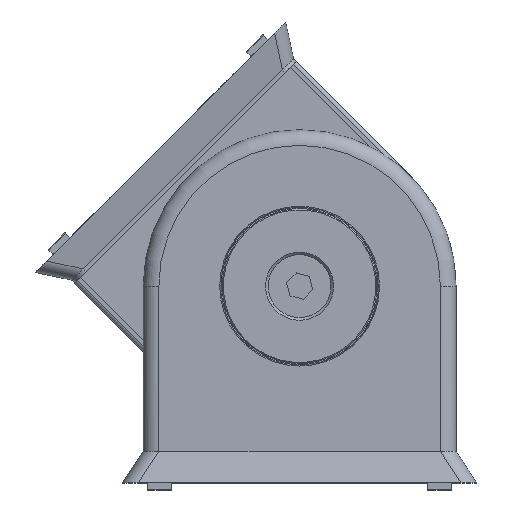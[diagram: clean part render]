
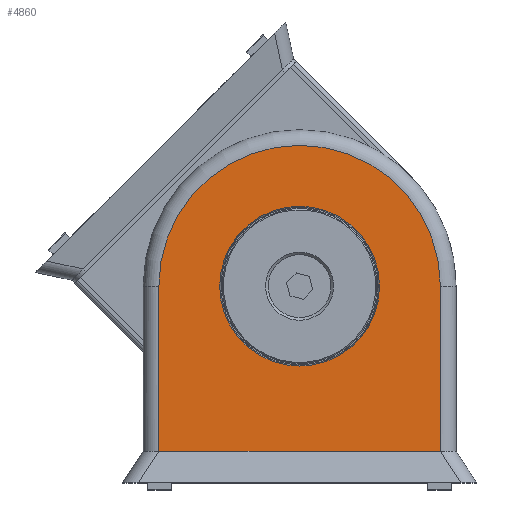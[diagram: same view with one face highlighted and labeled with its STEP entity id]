
A CAD part, top view. The second image highlights one B-rep face of the part: STEP entity #4860.
In plain terms, the highlighted planar face has unit normal (0, 0, 1) as drawn and (1, 0, 0) by its records, which use the part's own axes.
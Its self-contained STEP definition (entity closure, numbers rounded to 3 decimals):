
#299=LINE('',#7517,#744);
#300=LINE('',#7521,#745);
#305=LINE('',#7556,#750);
#744=VECTOR('',#5893,1000.);
#745=VECTOR('',#5898,1000.);
#750=VECTOR('',#5919,1000.);
#1278=ORIENTED_EDGE('',*,*,#2665,.F.);
#1279=ORIENTED_EDGE('',*,*,#2652,.T.);
#1280=ORIENTED_EDGE('',*,*,#2666,.T.);
#1281=ORIENTED_EDGE('',*,*,#2654,.F.);
#1282=ORIENTED_EDGE('',*,*,#2667,.T.);
#2652=EDGE_CURVE('',#3343,#3342,#299,.T.);
#2654=EDGE_CURVE('',#3344,#3345,#300,.T.);
#2665=EDGE_CURVE('',#3350,#3350,#3743,.F.);
#2666=EDGE_CURVE('',#3342,#3345,#305,.T.);
#2667=EDGE_CURVE('',#3344,#3343,#3744,.T.);
#3342=VERTEX_POINT('',#7516);
#3343=VERTEX_POINT('',#7518);
#3344=VERTEX_POINT('',#7522);
#3345=VERTEX_POINT('',#7523);
#3350=VERTEX_POINT('',#7555);
#3743=CIRCLE('',#5230,20.319);
#3744=CIRCLE('',#5231,35.8);
#3961=EDGE_LOOP('',(#1278));
#3962=EDGE_LOOP('',(#1279,#1280,#1281,#1282));
#4329=FACE_BOUND('',#3961,.T.);
#4330=FACE_BOUND('',#3962,.T.);
#4672=PLANE('',#5229);
#4860=ADVANCED_FACE('',(#4329,#4330),#4672,.F.);
#5229=AXIS2_PLACEMENT_3D('',#7553,#5915,#5916);
#5230=AXIS2_PLACEMENT_3D('',#7554,#5917,#5918);
#5231=AXIS2_PLACEMENT_3D('',#7557,#5920,#5921);
#5893=DIRECTION('',(0.,-1.,0.));
#5898=DIRECTION('',(0.,-1.,0.));
#5915=DIRECTION('',(-1.,0.,0.));
#5916=DIRECTION('',(0.,0.,1.));
#5917=DIRECTION('',(-1.,0.,0.));
#5918=DIRECTION('',(0.,0.,1.));
#5919=DIRECTION('',(0.,0.,-1.));
#5920=DIRECTION('',(1.,0.,0.));
#5921=DIRECTION('',(0.,0.,-1.));
#7516=CARTESIAN_POINT('',(19.9,-42.,35.8));
#7517=CARTESIAN_POINT('',(19.9,40.,35.8));
#7518=CARTESIAN_POINT('',(19.9,0.,35.8));
#7521=CARTESIAN_POINT('',(19.9,40.,-35.8));
#7522=CARTESIAN_POINT('',(19.9,0.,-35.8));
#7523=CARTESIAN_POINT('',(19.9,-42.,-35.8));
#7553=CARTESIAN_POINT('',(19.9,40.,35.8));
#7554=CARTESIAN_POINT('',(19.9,0.,0.));
#7555=CARTESIAN_POINT('',(19.9,0.,20.319));
#7556=CARTESIAN_POINT('',(19.9,-42.,35.8));
#7557=CARTESIAN_POINT('',(19.9,0.,0.));
